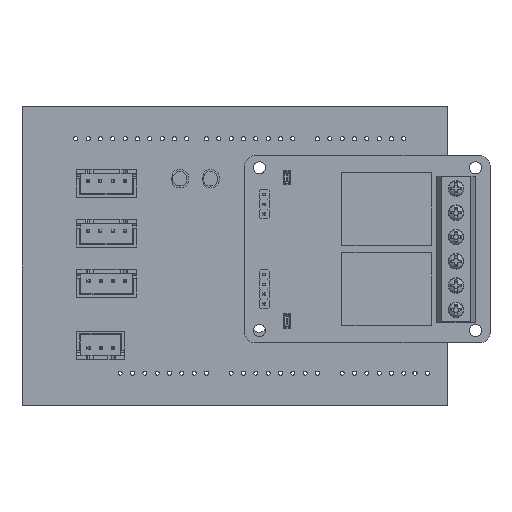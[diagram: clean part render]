
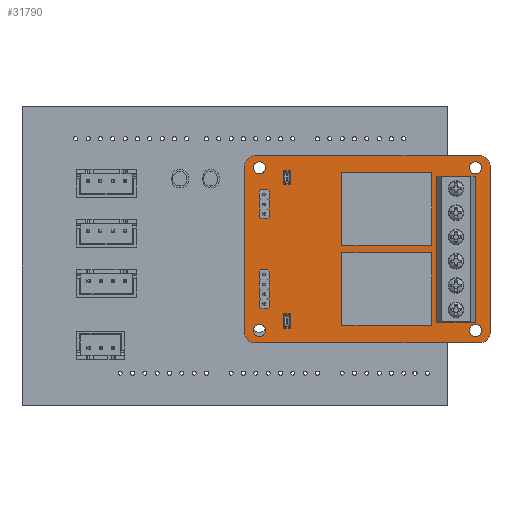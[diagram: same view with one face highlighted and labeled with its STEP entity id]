
A CAD part, top view. The second image highlights one B-rep face of the part: STEP entity #31790.
In plain terms, the highlighted planar face has unit normal (0, 0, 1).
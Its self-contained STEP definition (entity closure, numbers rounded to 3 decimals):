
#31126 = EDGE_CURVE('',#31127,#31129,#31131,.T.);
#31127 = VERTEX_POINT('',#31128);
#31128 = CARTESIAN_POINT('',(-19.711,18.115,
    5.073));
#31129 = VERTEX_POINT('',#31130);
#31130 = CARTESIAN_POINT('',(-17.711,20.115,
    5.073));
#31131 = CIRCLE('',#31132,2.);
#31132 = AXIS2_PLACEMENT_3D('',#31133,#31134,#31135);
#31133 = CARTESIAN_POINT('',(-17.711,18.115,
    5.073));
#31134 = DIRECTION('',(0.,0.,-1.));
#31135 = DIRECTION('',(-0.707,0.707,0.
    ));
#31178 = VERTEX_POINT('',#31179);
#31179 = CARTESIAN_POINT('',(-19.711,-16.385,
    5.073));
#31185 = EDGE_CURVE('',#31127,#31178,#31186,.T.);
#31186 = LINE('',#31187,#31188);
#31187 = CARTESIAN_POINT('',(-19.711,-18.385,
    5.073));
#31188 = VECTOR('',#31189,1.);
#31189 = DIRECTION('',(0.,-1.,0.));
#31379 = EDGE_CURVE('',#31380,#31382,#31384,.T.);
#31380 = VERTEX_POINT('',#31381);
#31381 = CARTESIAN_POINT('',(28.789,20.115,
    5.073));
#31382 = VERTEX_POINT('',#31383);
#31383 = CARTESIAN_POINT('',(30.789,18.115,
    5.073));
#31384 = CIRCLE('',#31385,2.);
#31385 = AXIS2_PLACEMENT_3D('',#31386,#31387,#31388);
#31386 = CARTESIAN_POINT('',(28.789,18.115,
    5.073));
#31387 = DIRECTION('',(0.,0.,-1.));
#31388 = DIRECTION('',(0.707,0.707,0.
    ));
#31412 = EDGE_CURVE('',#31413,#31382,#31415,.T.);
#31413 = VERTEX_POINT('',#31414);
#31414 = CARTESIAN_POINT('',(30.789,-16.385,
    5.073));
#31415 = LINE('',#31416,#31417);
#31416 = CARTESIAN_POINT('',(30.789,20.115,
    5.073));
#31417 = VECTOR('',#31418,1.);
#31418 = DIRECTION('',(0.,1.,0.));
#31435 = EDGE_CURVE('',#31413,#31436,#31438,.T.);
#31436 = VERTEX_POINT('',#31437);
#31437 = CARTESIAN_POINT('',(28.789,-18.385,
    5.073));
#31438 = CIRCLE('',#31439,2.);
#31439 = AXIS2_PLACEMENT_3D('',#31440,#31441,#31442);
#31440 = CARTESIAN_POINT('',(28.789,-16.385,
    5.073));
#31441 = DIRECTION('',(0.,0.,-1.));
#31442 = DIRECTION('',(0.707,-0.707,0.)
  );
#31460 = EDGE_CURVE('',#31461,#31178,#31463,.T.);
#31461 = VERTEX_POINT('',#31462);
#31462 = CARTESIAN_POINT('',(-17.711,-18.385,
    5.073));
#31463 = CIRCLE('',#31464,2.);
#31464 = AXIS2_PLACEMENT_3D('',#31465,#31466,#31467);
#31465 = CARTESIAN_POINT('',(-17.711,-16.385,
    5.073));
#31466 = DIRECTION('',(0.,0.,-1.));
#31467 = DIRECTION('',(-0.707,-0.707,
    0.));
#31486 = VERTEX_POINT('',#31487);
#31487 = CARTESIAN_POINT('',(-16.086,-6.385,
    5.073));
#31495 = EDGE_CURVE('',#31486,#31486,#31496,.T.);
#31496 = CIRCLE('',#31497,0.375);
#31497 = AXIS2_PLACEMENT_3D('',#31498,#31499,#31500);
#31498 = CARTESIAN_POINT('',(-15.711,-6.385,
    5.073));
#31499 = DIRECTION('',(0.,0.,-1.));
#31500 = DIRECTION('',(1.,0.,0.));
#31511 = VERTEX_POINT('',#31512);
#31512 = CARTESIAN_POINT('',(26.539,-15.885,
    5.073));
#31520 = EDGE_CURVE('',#31511,#31511,#31521,.T.);
#31521 = CIRCLE('',#31522,1.25);
#31522 = AXIS2_PLACEMENT_3D('',#31523,#31524,#31525);
#31523 = CARTESIAN_POINT('',(27.789,-15.885,
    5.073));
#31524 = DIRECTION('',(0.,0.,-1.));
#31525 = DIRECTION('',(1.,0.,0.));
#31536 = VERTEX_POINT('',#31537);
#31537 = CARTESIAN_POINT('',(-17.961,17.615,
    5.073));
#31545 = EDGE_CURVE('',#31536,#31536,#31546,.T.);
#31546 = CIRCLE('',#31547,1.25);
#31547 = AXIS2_PLACEMENT_3D('',#31548,#31549,#31550);
#31548 = CARTESIAN_POINT('',(-16.711,17.615,
    5.073));
#31549 = DIRECTION('',(0.,0.,-1.));
#31550 = DIRECTION('',(1.,0.,0.));
#31561 = VERTEX_POINT('',#31562);
#31562 = CARTESIAN_POINT('',(-16.086,-4.385,
    5.073));
#31570 = EDGE_CURVE('',#31561,#31561,#31571,.T.);
#31571 = CIRCLE('',#31572,0.375);
#31572 = AXIS2_PLACEMENT_3D('',#31573,#31574,#31575);
#31573 = CARTESIAN_POINT('',(-15.711,-4.385,
    5.073));
#31574 = DIRECTION('',(0.,0.,-1.));
#31575 = DIRECTION('',(1.,0.,0.));
#31586 = VERTEX_POINT('',#31587);
#31587 = CARTESIAN_POINT('',(-16.086,10.115,
    5.073));
#31595 = EDGE_CURVE('',#31586,#31586,#31596,.T.);
#31596 = CIRCLE('',#31597,0.375);
#31597 = AXIS2_PLACEMENT_3D('',#31598,#31599,#31600);
#31598 = CARTESIAN_POINT('',(-15.711,10.115,
    5.073));
#31599 = DIRECTION('',(0.,0.,-1.));
#31600 = DIRECTION('',(1.,0.,0.));
#31611 = VERTEX_POINT('',#31612);
#31612 = CARTESIAN_POINT('',(-16.086,-8.385,
    5.073));
#31620 = EDGE_CURVE('',#31611,#31611,#31621,.T.);
#31621 = CIRCLE('',#31622,0.375);
#31622 = AXIS2_PLACEMENT_3D('',#31623,#31624,#31625);
#31623 = CARTESIAN_POINT('',(-15.711,-8.385,
    5.073));
#31624 = DIRECTION('',(0.,0.,-1.));
#31625 = DIRECTION('',(1.,0.,0.));
#31636 = VERTEX_POINT('',#31637);
#31637 = CARTESIAN_POINT('',(-16.086,8.115,
    5.073));
#31645 = EDGE_CURVE('',#31636,#31636,#31646,.T.);
#31646 = CIRCLE('',#31647,0.375);
#31647 = AXIS2_PLACEMENT_3D('',#31648,#31649,#31650);
#31648 = CARTESIAN_POINT('',(-15.711,8.115,
    5.073));
#31649 = DIRECTION('',(0.,0.,-1.));
#31650 = DIRECTION('',(1.,0.,0.));
#31661 = VERTEX_POINT('',#31662);
#31662 = CARTESIAN_POINT('',(-16.086,-10.385,
    5.073));
#31670 = EDGE_CURVE('',#31661,#31661,#31671,.T.);
#31671 = CIRCLE('',#31672,0.375);
#31672 = AXIS2_PLACEMENT_3D('',#31673,#31674,#31675);
#31673 = CARTESIAN_POINT('',(-15.711,-10.385,
    5.073));
#31674 = DIRECTION('',(0.,0.,-1.));
#31675 = DIRECTION('',(1.,0.,0.));
#31686 = VERTEX_POINT('',#31687);
#31687 = CARTESIAN_POINT('',(-17.961,-15.885,
    5.073));
#31695 = EDGE_CURVE('',#31686,#31686,#31696,.T.);
#31696 = CIRCLE('',#31697,1.25);
#31697 = AXIS2_PLACEMENT_3D('',#31698,#31699,#31700);
#31698 = CARTESIAN_POINT('',(-16.711,-15.885,
    5.073));
#31699 = DIRECTION('',(0.,0.,-1.));
#31700 = DIRECTION('',(1.,0.,0.));
#31711 = VERTEX_POINT('',#31712);
#31712 = CARTESIAN_POINT('',(-16.086,12.115,
    5.073));
#31720 = EDGE_CURVE('',#31711,#31711,#31721,.T.);
#31721 = CIRCLE('',#31722,0.375);
#31722 = AXIS2_PLACEMENT_3D('',#31723,#31724,#31725);
#31723 = CARTESIAN_POINT('',(-15.711,12.115,
    5.073));
#31724 = DIRECTION('',(0.,0.,-1.));
#31725 = DIRECTION('',(1.,0.,0.));
#31736 = VERTEX_POINT('',#31737);
#31737 = CARTESIAN_POINT('',(26.539,17.615,
    5.073));
#31745 = EDGE_CURVE('',#31736,#31736,#31746,.T.);
#31746 = CIRCLE('',#31747,1.25);
#31747 = AXIS2_PLACEMENT_3D('',#31748,#31749,#31750);
#31748 = CARTESIAN_POINT('',(27.789,17.615,
    5.073));
#31749 = DIRECTION('',(0.,0.,-1.));
#31750 = DIRECTION('',(1.,0.,0.));
#31761 = EDGE_CURVE('',#31461,#31436,#31762,.T.);
#31762 = LINE('',#31763,#31764);
#31763 = CARTESIAN_POINT('',(30.789,-18.385,
    5.073));
#31764 = VECTOR('',#31765,1.);
#31765 = DIRECTION('',(1.,0.,0.));
#31778 = EDGE_CURVE('',#31380,#31129,#31779,.T.);
#31779 = LINE('',#31780,#31781);
#31780 = CARTESIAN_POINT('',(-19.711,20.115,
    5.073));
#31781 = VECTOR('',#31782,1.);
#31782 = DIRECTION('',(-1.,0.,0.));
#31790 = ADVANCED_FACE('',(#31791,#31801,#31804,#31807,#31810,#31813,
    #31816,#31819,#31822,#31825,#31828,#31831),#31834,.T.);
#31791 = FACE_BOUND('',#31792,.T.);
#31792 = EDGE_LOOP('',(#31793,#31794,#31795,#31796,#31797,#31798,#31799,
    #31800));
#31793 = ORIENTED_EDGE('',*,*,#31126,.F.);
#31794 = ORIENTED_EDGE('',*,*,#31185,.T.);
#31795 = ORIENTED_EDGE('',*,*,#31460,.F.);
#31796 = ORIENTED_EDGE('',*,*,#31761,.T.);
#31797 = ORIENTED_EDGE('',*,*,#31435,.F.);
#31798 = ORIENTED_EDGE('',*,*,#31412,.T.);
#31799 = ORIENTED_EDGE('',*,*,#31379,.F.);
#31800 = ORIENTED_EDGE('',*,*,#31778,.T.);
#31801 = FACE_BOUND('',#31802,.T.);
#31802 = EDGE_LOOP('',(#31803));
#31803 = ORIENTED_EDGE('',*,*,#31745,.T.);
#31804 = FACE_BOUND('',#31805,.T.);
#31805 = EDGE_LOOP('',(#31806));
#31806 = ORIENTED_EDGE('',*,*,#31720,.T.);
#31807 = FACE_BOUND('',#31808,.T.);
#31808 = EDGE_LOOP('',(#31809));
#31809 = ORIENTED_EDGE('',*,*,#31695,.T.);
#31810 = FACE_BOUND('',#31811,.T.);
#31811 = EDGE_LOOP('',(#31812));
#31812 = ORIENTED_EDGE('',*,*,#31670,.T.);
#31813 = FACE_BOUND('',#31814,.T.);
#31814 = EDGE_LOOP('',(#31815));
#31815 = ORIENTED_EDGE('',*,*,#31645,.T.);
#31816 = FACE_BOUND('',#31817,.T.);
#31817 = EDGE_LOOP('',(#31818));
#31818 = ORIENTED_EDGE('',*,*,#31620,.T.);
#31819 = FACE_BOUND('',#31820,.T.);
#31820 = EDGE_LOOP('',(#31821));
#31821 = ORIENTED_EDGE('',*,*,#31595,.T.);
#31822 = FACE_BOUND('',#31823,.T.);
#31823 = EDGE_LOOP('',(#31824));
#31824 = ORIENTED_EDGE('',*,*,#31570,.T.);
#31825 = FACE_BOUND('',#31826,.T.);
#31826 = EDGE_LOOP('',(#31827));
#31827 = ORIENTED_EDGE('',*,*,#31545,.T.);
#31828 = FACE_BOUND('',#31829,.T.);
#31829 = EDGE_LOOP('',(#31830));
#31830 = ORIENTED_EDGE('',*,*,#31520,.T.);
#31831 = FACE_BOUND('',#31832,.T.);
#31832 = EDGE_LOOP('',(#31833));
#31833 = ORIENTED_EDGE('',*,*,#31495,.T.);
#31834 = PLANE('',#31835);
#31835 = AXIS2_PLACEMENT_3D('',#31836,#31837,#31838);
#31836 = CARTESIAN_POINT('',(5.539,0.865,5.073
    ));
#31837 = DIRECTION('',(0.,0.,1.));
#31838 = DIRECTION('',(1.,0.,0.));
